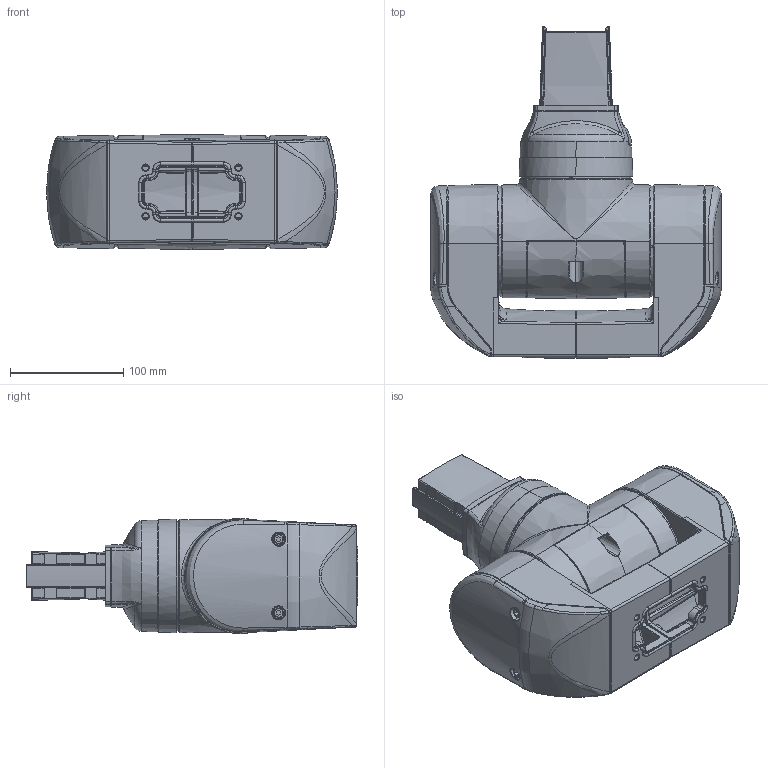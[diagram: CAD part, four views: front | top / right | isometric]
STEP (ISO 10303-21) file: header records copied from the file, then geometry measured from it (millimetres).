
FILE_DESCRIPTION((''),'2;1');
FILE_NAME('1017300072','2018-11-06T14:07:31',('Melanie.Fehring'),(''),'CREO PARAMETRIC BY PTC INC, 2017260','CREO PARAMETRIC BY PTC INC, 2017260','');
FILE_SCHEMA(('AUTOMOTIVE_DESIGN { 1 0 10303 214 1 1 1 1 }'));
Products named in the file (1): 1017300072
Bounding box: 256.4 x 293 x 101.6 mm (x, y, z)
Surface area: 459332.6 mm2 (no closed solid volume)
Topology: 0 solids, 116 shells, 3079 faces, 8742 edges, 5653 vertices
Faces by surface type: plane 796, cylinder 757, bspline 660, cone 562, torus 215, sphere 71, extrusion 18
Entity records: 189361 total; most frequent: CARTESIAN_POINT 68623, ORIENTED_EDGE 15023, DIRECTION 13947, PRESENTATION_STYLE_ASSIGNMENT 11721, STYLED_ITEM 8743, CURVE_STYLE 8682, EDGE_CURVE 8664, VERTEX_POINT 5653
